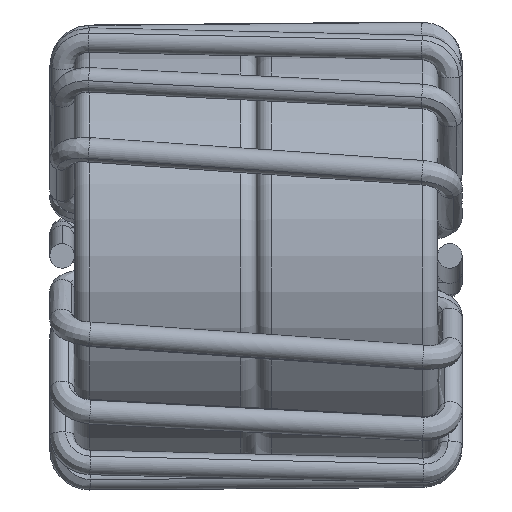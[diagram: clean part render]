
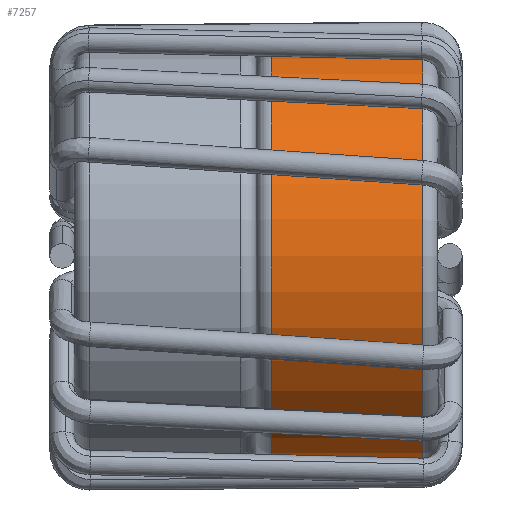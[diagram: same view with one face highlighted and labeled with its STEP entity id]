
A CAD part, left-side view. The second image highlights one B-rep face of the part: STEP entity #7257.
In plain terms, the highlighted cylindrical face has radius 13.85 mm (diameter 27.7 mm), a partial arc.
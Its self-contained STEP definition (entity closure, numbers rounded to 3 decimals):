
#10 = CIRCLE ( 'NONE', #9307, 13.85 ) ;
#932 = ORIENTED_EDGE ( 'NONE', *, *, #11078, .T. ) ;
#1001 = ORIENTED_EDGE ( 'NONE', *, *, #15751, .T. ) ;
#1803 = AXIS2_PLACEMENT_3D ( 'NONE', #19785, #14808, #11264 ) ;
#1815 = CIRCLE ( 'NONE', #8603, 13.85 ) ;
#2649 = VERTEX_POINT ( 'NONE', #2843 ) ;
#2843 = CARTESIAN_POINT ( 'NONE',  ( 21.783, 3.023, -13.637 ) ) ;
#4468 = DIRECTION ( 'NONE',  ( 0., 0., 1. ) ) ;
#5200 = CARTESIAN_POINT ( 'NONE',  ( 21.783, 14.013, 14.063 ) ) ;
#5786 = VERTEX_POINT ( 'NONE', #17363 ) ;
#7257 = ADVANCED_FACE ( 'NONE', ( #21397 ), #7370, .T. ) ;
#7335 = DIRECTION ( 'NONE',  ( 0., 1., 0. ) ) ;
#7370 = CYLINDRICAL_SURFACE ( 'NONE', #1803, 13.85 ) ;
#7720 = DIRECTION ( 'NONE',  ( 0., -1., 0. ) ) ;
#7731 = VERTEX_POINT ( 'NONE', #12190 ) ;
#7890 = ORIENTED_EDGE ( 'NONE', *, *, #17428, .T. ) ;
#8187 = LINE ( 'NONE', #16988, #21092 ) ;
#8603 = AXIS2_PLACEMENT_3D ( 'NONE', #14415, #7720, #4468 ) ;
#8908 = EDGE_CURVE ( 'NONE', #7731, #5786, #21714, .T. ) ;
#9307 = AXIS2_PLACEMENT_3D ( 'NONE', #13004, #7335, #19180 ) ;
#10995 = VERTEX_POINT ( 'NONE', #20563 ) ;
#11078 = EDGE_CURVE ( 'NONE', #7731, #10995, #1815, .T. ) ;
#11264 = DIRECTION ( 'NONE',  ( 0., 0., -1. ) ) ;
#12190 = CARTESIAN_POINT ( 'NONE',  ( 21.783, 13.013, 14.063 ) ) ;
#13004 = CARTESIAN_POINT ( 'NONE',  ( 21.783, 3.023, 0.213 ) ) ;
#13455 = DIRECTION ( 'NONE',  ( 0., -1., 0. ) ) ;
#14415 = CARTESIAN_POINT ( 'NONE',  ( 21.783, 13.013, 0.213 ) ) ;
#14808 = DIRECTION ( 'NONE',  ( 0., -1., 0. ) ) ;
#15751 = EDGE_CURVE ( 'NONE', #10995, #2649, #8187, .T. ) ;
#16988 = CARTESIAN_POINT ( 'NONE',  ( 21.783, 14.013, -13.637 ) ) ;
#17363 = CARTESIAN_POINT ( 'NONE',  ( 21.783, 3.023, 14.063 ) ) ;
#17428 = EDGE_CURVE ( 'NONE', #2649, #5786, #10, .T. ) ;
#18823 = VECTOR ( 'NONE', #20401, 1000. ) ;
#19180 = DIRECTION ( 'NONE',  ( 0., 0., 1. ) ) ;
#19785 = CARTESIAN_POINT ( 'NONE',  ( 21.783, 14.013, 0.213 ) ) ;
#20401 = DIRECTION ( 'NONE',  ( 0., -1., 0. ) ) ;
#20563 = CARTESIAN_POINT ( 'NONE',  ( 21.783, 13.013, -13.637 ) ) ;
#21092 = VECTOR ( 'NONE', #13455, 1000. ) ;
#21148 = EDGE_LOOP ( 'NONE', ( #21800, #932, #1001, #7890 ) ) ;
#21397 = FACE_OUTER_BOUND ( 'NONE', #21148, .T. ) ;
#21714 = LINE ( 'NONE', #5200, #18823 ) ;
#21800 = ORIENTED_EDGE ( 'NONE', *, *, #8908, .F. ) ;
